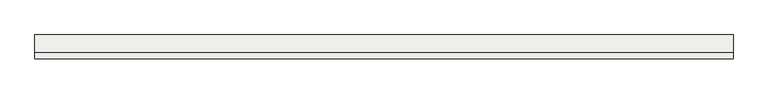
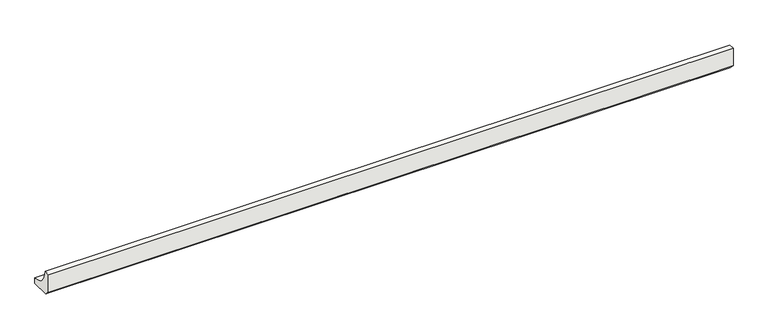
"""IFC4 building model written with IfcOpenShell, lengths in millimetres: slab geometry, ROSA GRES_112 : Pieza 112_Aqua_Plomo_Liso."""

from ifc_helpers import new_model, si_unit, point, frame, frame_2d, origin, place, context, project, spatial, polyline, circle_curve, trimmed, segment, composite_curve, outline, extrude, source, transform, mapped, element, save


def slab_de9ef0ad(model_context):
    return source(origin(), model_context, "Body", "SweptSolid", [
        extrude(outline(composite_curve([segment(polyline([(0.0, 8.7114978), (0.0, 40.0), (9.9734114, 40.0)]), True, "CONTINUOUS"), segment(trimmed(circle_curve(frame_2d((39.9955547, 39.9955547)), 30.0221435), [point((9.9734114, 40.0))], [point((40.0, 9.9734114))], True, "CARTESIAN"), True, "CONTINUOUS"), segment(polyline([(40.0, 9.9734114), (40.0, 0.0), (8.7114978, 0.0), (0.0, 8.7114978)]), True, "CONTINUOUS")], self_intersect=False)), frame((0.0, 0.0, 0.0), z_axis=(1.0, 0.0, 0.0), x_axis=(0.0, 1.0, 0.0)), (0.0, 0.0, 1.0), 1164.5),
    ])


if __name__ == "__main__":
    model = new_model("IFC4")
    model_context = context("Model", 3, world=origin())
    ifc_project = project(units=[si_unit("LENGTHUNIT", "METRE", prefix="MILLI")], contexts=[model_context])
    site = spatial("IfcSite", under=ifc_project)
    building = spatial("IfcBuilding", under=site)
    placement = place(None, origin())
    slab_shape = slab_de9ef0ad(model_context)
    element("IfcSlab", 1, ObjectType="ROSA GRES_112 : Pieza 112_Aqua_Plomo_Liso", at=placement, inside=building, context=model_context, shape_type="MappedRepresentation", body=[
        mapped(slab_shape, transform((0.0, 0.0, 0.0), x_axis=(1.0, 0.0, 0.0), y_axis=(0.0, 1.0, 0.0), z_axis=(0.0, 0.0, 1.0))),
    ])
    save(model, "model.ifc")
